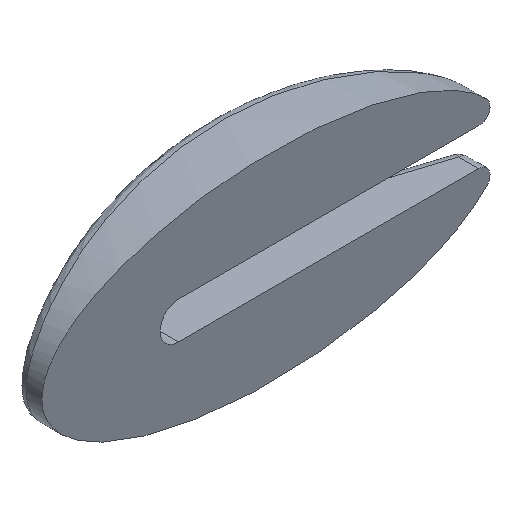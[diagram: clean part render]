
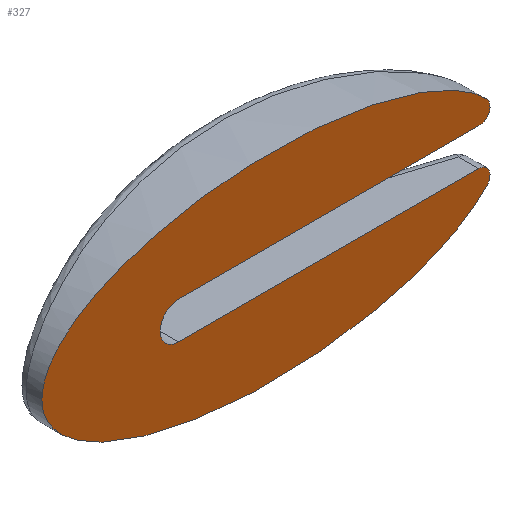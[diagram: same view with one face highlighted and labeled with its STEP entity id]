
A CAD part, isometric view. The second image highlights one B-rep face of the part: STEP entity #327.
In plain terms, the highlighted planar face has unit normal (0, -1, 0).
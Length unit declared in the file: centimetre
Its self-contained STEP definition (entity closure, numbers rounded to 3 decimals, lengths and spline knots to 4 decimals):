
#199=VERTEX_POINT('',#1287);
#200=VERTEX_POINT('',#1289);
#201=VERTEX_POINT('',#1293);
#202=VERTEX_POINT('',#1297);
#203=VERTEX_POINT('',#1302);
#204=VERTEX_POINT('',#1304);
#222=EDGE_CURVE('',#199,#200,#425,.T.);
#225=EDGE_CURVE('',#201,#199,#390,.T.);
#227=EDGE_CURVE('',#202,#201,#360,.T.);
#228=EDGE_CURVE('',#203,#202,#391,.T.);
#229=EDGE_CURVE('',#204,#203,#429,.T.);
#230=EDGE_CURVE('',#200,#204,#392,.T.);
#271=ORIENTED_EDGE('',*,*,#225,.F.);
#272=ORIENTED_EDGE('',*,*,#227,.F.);
#273=ORIENTED_EDGE('',*,*,#228,.F.);
#274=ORIENTED_EDGE('',*,*,#229,.F.);
#275=ORIENTED_EDGE('',*,*,#230,.F.);
#276=ORIENTED_EDGE('',*,*,#222,.F.);
#299=EDGE_LOOP('',(#271,#272,#273,#274,#275,#276));
#313=FACE_BOUND('',#299,.T.);
#327=ADVANCED_FACE('',(#313),#725,.F.);
#360=ELLIPSE('',#678,6.2293,2.688);
#390=CIRCLE('',#676,0.3);
#391=CIRCLE('',#681,0.3);
#392=CIRCLE('',#682,0.5);
#425=LINE('',#1288,#712);
#429=LINE('',#1303,#717);
#676=AXIS2_PLACEMENT_3D('',#1294,#1383,#1384);
#678=AXIS2_PLACEMENT_3D('',#1298,#1389,#1390);
#680=AXIS2_PLACEMENT_3D('',#1300,#1393,$);
#681=AXIS2_PLACEMENT_3D('',#1301,#1394,#1395);
#682=AXIS2_PLACEMENT_3D('',#1305,#1397,#1398);
#712=VECTOR('',#1378,1.);
#717=VECTOR('',#1396,1.);
#725=PLANE('',#680);
#1287=CARTESIAN_POINT('',(5.5585,14.1158,0.5));
#1288=CARTESIAN_POINT('',(1.3106,14.1158,0.5));
#1289=CARTESIAN_POINT('',(-2.5414,14.1158,0.5));
#1293=CARTESIAN_POINT('',(5.7778,14.1158,1.0048));
#1294=CARTESIAN_POINT('',(5.5585,14.1158,0.8));
#1297=CARTESIAN_POINT('',(5.7778,14.1158,-1.0048));
#1298=CARTESIAN_POINT('',(0.,14.1158,0.));
#1300=CARTESIAN_POINT('',(0.8316,14.1158,-39.141));
#1301=CARTESIAN_POINT('',(5.5585,14.1158,-0.8));
#1302=CARTESIAN_POINT('',(5.5585,14.1158,-0.5));
#1303=CARTESIAN_POINT('',(1.3106,14.1158,-0.5));
#1304=CARTESIAN_POINT('',(-2.5414,14.1158,-0.5));
#1305=CARTESIAN_POINT('',(-2.5414,14.1158,0.));
#1378=DIRECTION('',(-1.,0.,0.));
#1383=DIRECTION('',(0.,1.,0.));
#1384=DIRECTION('',(0.275,0.,-0.12));
#1389=DIRECTION('',(0.,1.,0.));
#1390=DIRECTION('',(6.229,0.,0.));
#1393=DIRECTION('',(0.,1.,0.));
#1394=DIRECTION('',(0.,1.,0.));
#1395=DIRECTION('',(0.275,0.,0.12));
#1396=DIRECTION('',(1.,0.,0.));
#1397=DIRECTION('',(0.,-1.,0.));
#1398=DIRECTION('',(0.5,0.,0.));
